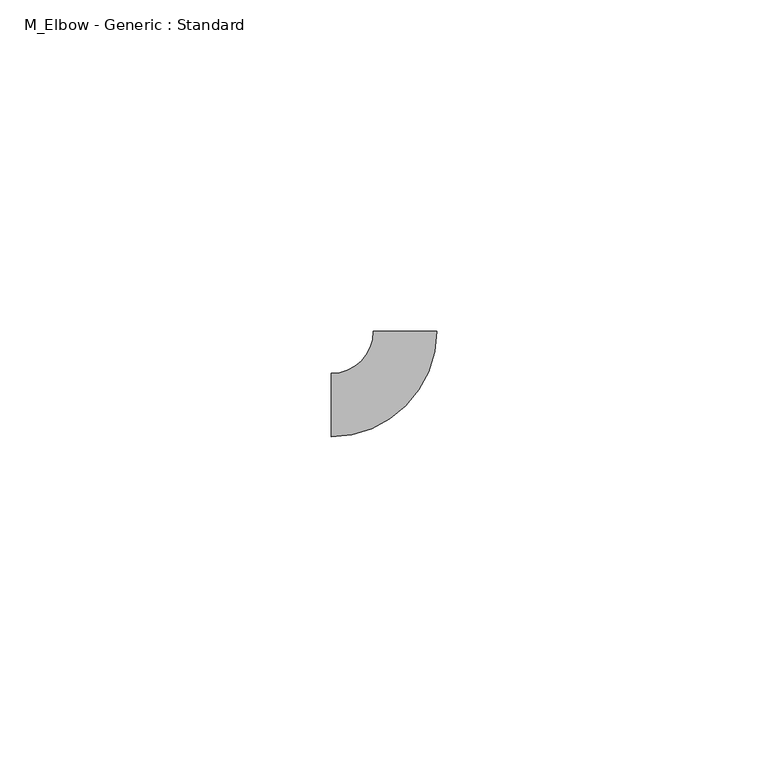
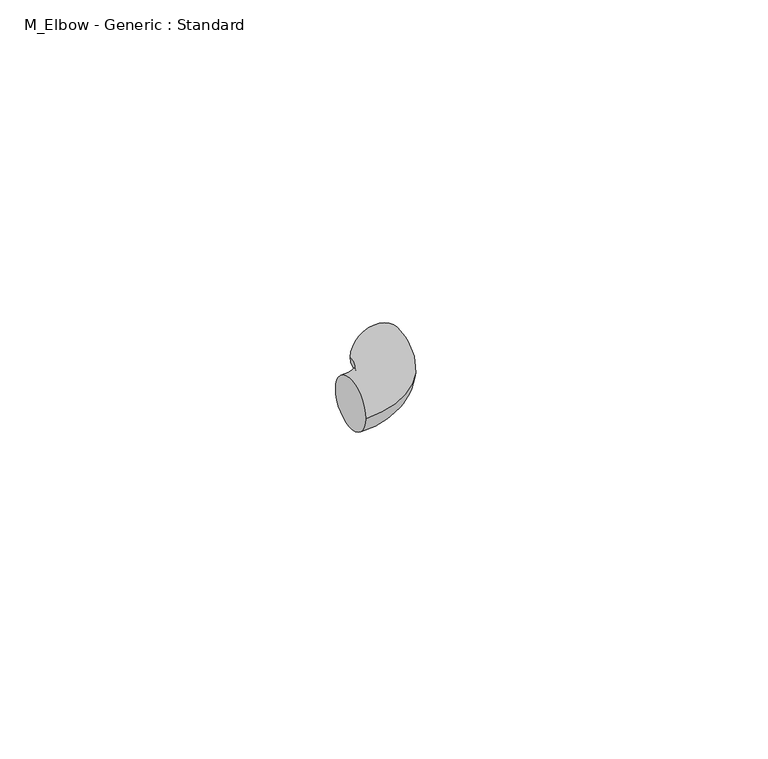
"""IFC4 building model written with IfcOpenShell, lengths in millimetres: pipe fitting geometry, M_Elbow - Generic : Standard."""

import ifcopenshell
import ifcopenshell.guid

model = None  # the IFC model being written
_history = None  # IfcOwnerHistory: only IFC2X3 demands one
_inside = {}  # id of a spatial element -> (the spatial element, [elements in it])
_under = {}  # id of a project, library or spatial element -> (it, [spatial elements below it])
_declared = {}  # id of a project -> (the project, [libraries it declares])
_typed = {}  # id of a type object -> (the type object, [elements of that type])
_made_of = {}  # id of a material, layer set ... -> (it, [elements and type objects made of it])


def new_model(schema):
    """Start an empty IFC model of exactly this schema.

    Asked for "IFC4X3", IfcOpenShell would pick the latest addendum, in which some entities
    have other attributes; the version numbers below select the first issue.
    IFC2X3 requires an IfcOwnerHistory on every rooted entity: one is made here for all.
    """
    global model, _history
    if schema == "IFC4X3":
        model = ifcopenshell.file(schema_version=(4, 3, 0, 0))
    else:
        model = ifcopenshell.file(schema=schema)
    _inside.clear()
    _under.clear()
    _declared.clear()
    _typed.clear()
    _made_of.clear()
    _history = None
    if model.schema == "IFC2X3":
        org = make("IfcOrganization", Name="unknown")
        user = make(
            "IfcPersonAndOrganization",
            ThePerson=make("IfcPerson", FamilyName="unknown"),
            TheOrganization=org,
        )
        app = make(
            "IfcApplication",
            ApplicationDeveloper=org,
            Version="unknown",
            ApplicationFullName="unknown",
            ApplicationIdentifier="unknown",
        )
        _history = make(
            "IfcOwnerHistory",
            OwningUser=user,
            OwningApplication=app,
            ChangeAction="ADDED",
            CreationDate=0,
        )
    return model


def make(cls, **values):
    """One entity of the class cls with the attributes given. An attribute that is None is left unset."""
    return model.create_entity(
        cls, **{name: value for name, value in values.items() if value is not None}
    )


def rooted(cls, **values):
    """An entity with a GlobalId (a new one), such as an element, a storey or a relation."""
    return make(cls, GlobalId=ifcopenshell.guid.new(), OwnerHistory=_history, **values)


def si_unit(unit_type, name, prefix=None):
    """IfcSIUnit, for example si_unit("LENGTHUNIT", "METRE", prefix="MILLI")."""
    return make("IfcSIUnit", UnitType=unit_type, Prefix=prefix, Name=name)


def assignment(units):
    """IfcUnitAssignment: the units of a project."""
    return None if units is None else make("IfcUnitAssignment", Units=units)


def point(xyz):
    """IfcCartesianPoint."""
    return None if xyz is None else make("IfcCartesianPoint", Coordinates=xyz)


def direction(xyz):
    """IfcDirection."""
    return None if xyz is None else make("IfcDirection", DirectionRatios=xyz)


def frame(location, z_axis=None, x_axis=None):
    """IfcAxis2Placement3D, a coordinate frame: its origin and axes. An axis left out is left unset."""
    return make(
        "IfcAxis2Placement3D",
        Location=point(location),
        Axis=direction(z_axis),
        RefDirection=direction(x_axis),
    )


def origin():
    """The frame at (0, 0, 0) with its axes left unset."""
    return frame((0.0, 0.0, 0.0))


def place(relative_to, where):
    """IfcLocalPlacement: puts the frame where relative to a parent placement (None: the world)."""
    return make(
        "IfcLocalPlacement", PlacementRelTo=relative_to, RelativePlacement=where
    )


def context(
    kind, dimensions, precision=None, world=None, true_north=None, identifier=None
):
    """IfcGeometricRepresentationContext, for example the 3D "Model" context."""
    return make(
        "IfcGeometricRepresentationContext",
        ContextIdentifier=identifier,
        ContextType=kind,
        CoordinateSpaceDimension=dimensions,
        Precision=precision,
        WorldCoordinateSystem=world,
        TrueNorth=true_north,
    )


def project(units=None, contexts=None):
    """IfcProject with its units and contexts."""
    return rooted(
        "IfcProject",
        Name="project",
        RepresentationContexts=contexts,
        UnitsInContext=assignment(units),
    )


def spatial(cls, under=None, at=None, **own):
    """A site, building, storey or space (cls), placed at a placement, below another one or the project."""
    s = rooted(cls, ObjectPlacement=at, **own)
    if under is not None:
        _under.setdefault(under.id(), (under, []))[1].append(s)
    return s


def circle_curve(where, radius):
    """IfcCircle in the frame where."""
    return make("IfcCircle", Position=where, Radius=radius)


def ellipse_curve(where, semi_axis1, semi_axis2):
    """IfcEllipse in the frame where."""
    return make(
        "IfcEllipse", Position=where, SemiAxis1=semi_axis1, SemiAxis2=semi_axis2
    )


def trimmed(basis, trim1, trim2, sense, master):
    """IfcTrimmedCurve: the piece of a basis curve between two trims."""
    return make(
        "IfcTrimmedCurve",
        BasisCurve=basis,
        Trim1=trim1,
        Trim2=trim2,
        SenseAgreement=sense,
        MasterRepresentation=master,
    )


def shape(context_of_items, identifier, shape_type, items):
    """IfcShapeRepresentation: the items that make up one representation, for example the "Body"."""
    return make(
        "IfcShapeRepresentation",
        ContextOfItems=context_of_items,
        RepresentationIdentifier=identifier,
        RepresentationType=shape_type,
        Items=items,
    )


def source(mapping_origin, context_of_items, identifier, shape_type, items):
    """IfcRepresentationMap: a shape defined once, which mapped items show again and again."""
    return make(
        "IfcRepresentationMap",
        MappingOrigin=mapping_origin,
        MappedRepresentation=shape(context_of_items, identifier, shape_type, items),
    )


def transform(
    local_origin,
    x_axis=None,
    y_axis=None,
    z_axis=None,
    scale=None,
    scale2=None,
    scale3=None,
    uniform=True,
):
    """IfcCartesianTransformationOperator3D, or its non-uniform kind. x_axis, y_axis, z_axis: its Axis1, 2, 3."""
    if uniform:
        return make(
            "IfcCartesianTransformationOperator3D",
            Axis1=direction(x_axis),
            Axis2=direction(y_axis),
            LocalOrigin=point(local_origin),
            Scale=scale,
            Axis3=direction(z_axis),
        )
    return make(
        "IfcCartesianTransformationOperator3DnonUniform",
        Axis1=direction(x_axis),
        Axis2=direction(y_axis),
        LocalOrigin=point(local_origin),
        Scale=scale,
        Axis3=direction(z_axis),
        Scale2=scale2,
        Scale3=scale3,
    )


def mapped(mapping_source, mapping_target):
    """IfcMappedItem: shows the shape of a source again, moved by a transform."""
    return make(
        "IfcMappedItem", MappingSource=mapping_source, MappingTarget=mapping_target
    )


def made_of(thing, what):
    """Note that an element or type object is made of a material, layer set ...; save() writes the relation."""
    if what is not None:
        _made_of.setdefault(what.id(), (what, []))[1].append(thing)
    return thing


def element(
    cls,
    number,
    at=None,
    inside=None,
    cuts=None,
    type_object=None,
    material=None,
    context=None,
    identifier="Body",
    shape_type=None,
    held_by="IfcProductDefinitionShape",
    body=None,
    shapes=None,
    **own,
):
    """One element of the class cls, such as IfcWall. Its Tag is "e" and its number.

    at: its placement. inside: the storey or other place that contains it. cuts: it is an
    opening in that element (IfcRelVoidsElement). A single representation is given by context,
    identifier, shape_type and body (its items); several are given by shapes. held_by: the class
    of the entity that holds the representations. save() writes the other relations.
    """
    e = rooted(cls, Tag="e%d" % number, ObjectPlacement=at, **own)
    if body is not None:
        shapes = [shape(context, identifier, shape_type, body)]
    if shapes is not None:
        e.Representation = make(held_by, Representations=shapes)
    if inside is not None:
        _inside.setdefault(inside.id(), (inside, []))[1].append(e)
    if cuts is not None:
        rooted(
            "IfcRelVoidsElement", RelatingBuildingElement=cuts, RelatedOpeningElement=e
        )
    if type_object is not None:
        _typed.setdefault(type_object.id(), (type_object, []))[1].append(e)
    return made_of(e, material)


def aggregate(whole, parts):
    """IfcRelAggregates: a whole, such as a stair, and the parts it consists of."""
    return rooted("IfcRelAggregates", RelatingObject=whole, RelatedObjects=parts)


def save(model, path):
    """Write the relations noted so far, then the file.

    IfcRelAggregates (storeys below a building ...), IfcRelContainedInSpatialStructure (elements
    in a storey), IfcRelDefinesByType, IfcRelAssociatesMaterial and IfcRelDeclares: one each for
    every whole, place, type object, material and project.
    """
    for whole, parts in _under.values():
        aggregate(whole, parts)
    for where, things in _inside.values():
        rooted(
            "IfcRelContainedInSpatialStructure",
            RelatedElements=things,
            RelatingStructure=where,
        )
    for kind, things in _typed.values():
        rooted("IfcRelDefinesByType", RelatedObjects=things, RelatingType=kind)
    for what, things in _made_of.values():
        rooted("IfcRelAssociatesMaterial", RelatedObjects=things, RelatingMaterial=what)
    for by, libraries in _declared.values():
        rooted("IfcRelDeclares", RelatingContext=by, RelatedDefinitions=libraries)
    model.write(path)


def plane_surface(at):
    """IfcPlane: the flat surface through the origin of the frame at, square to its z axis."""
    return make("IfcPlane", Position=at)


def revolved_surface(curve, axis_point, axis_direction):
    """IfcSurfaceOfRevolution: the curve turned about the line through axis_point along axis_direction."""
    return make(
        "IfcSurfaceOfRevolution",
        SweptCurve=make("IfcArbitraryOpenProfileDef", ProfileType="CURVE", Curve=curve),
        AxisPosition=make("IfcAxis1Placement", Location=point(axis_point), Axis=direction(axis_direction)),
    )


def advanced_brep(points, edges, surfaces, faces):
    """IfcAdvancedBrep: a solid bounded by faces that lie on surfaces and meet in shared edges.

    An edge is (start, end): straight between two places in points (the first is 0);
    or (start, end, curve); or (start, end, curve, False) where it runs against its curve.
    A face is (place in surfaces, loops), or (place, loops, False) where it looks against
    its surface's normal. A loop lists edges by number (the first is 1), with a minus sign
    where the edge is run from its end to its start. The first loop is the outer one.
    """
    corners = [point(p) for p in points]
    vertices = [make("IfcVertexPoint", VertexGeometry=c) for c in corners]
    made = []
    for start, end, *more in edges:
        made.append(
            make(
                "IfcEdgeCurve",
                EdgeStart=vertices[start],
                EdgeEnd=vertices[end],
                EdgeGeometry=more[0] if more else make("IfcPolyline", Points=[corners[start], corners[end]]),
                SameSense=more[1] if len(more) > 1 else True,
            )
        )
    hull = []
    for where, loops, *sense in faces:
        bounds = []
        for j, loop in enumerate(loops):
            ring = [make("IfcOrientedEdge", EdgeElement=made[abs(k) - 1], Orientation=k > 0) for k in loop]
            bounds.append(
                make(
                    "IfcFaceOuterBound" if j == 0 else "IfcFaceBound",
                    Bound=make("IfcEdgeLoop", EdgeList=ring),
                    Orientation=True,
                )
            )
        hull.append(make("IfcAdvancedFace", Bounds=bounds, FaceSurface=surfaces[where], SameSense=sense[0] if sense else True))
    return make("IfcAdvancedBrep", Outer=make("IfcClosedShell", CfsFaces=hull))


def m_elbow_generic_standard_96996eaf(model_context):
    return source(origin(), model_context, "Body", "AdvancedBrep", [
        advanced_brep(
        [(-11.1120091, -4.7625, 0.0), (-11.1120091, 4.7625, 0.0), (4.7629909, 11.1117987, 0.0), (-4.7620091, 11.1122195, 0.0)],
        [
            (0, 1, circle_curve(frame((-11.1120091, 0.0, 0.0), z_axis=(-1.0, 0.0, 0.0), x_axis=(0.0, 1.0, 0.0)), 4.7625)),
            (1, 0, circle_curve(frame((-11.1120091, 0.0, 0.0), z_axis=(-1.0, 0.0, 0.0), x_axis=(0.0, 1.0, 0.0)), 4.7625)),
            (2, 3, circle_curve(frame((0.0004909, 11.1120091, 0.0), z_axis=(4.417863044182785e-05, 0.9999999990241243, 0.0), x_axis=(-0.9999999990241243, 4.417863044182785e-05, 0.0)), 4.7625)),
            (3, 2, circle_curve(frame((0.0004909, 11.1120091, 0.0), z_axis=(4.417863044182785e-05, 0.9999999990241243, 0.0), x_axis=(-0.9999999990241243, 4.417863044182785e-05, 0.0)), 4.7625)),
            (3, 1, circle_curve(frame((-11.1120091, 11.1125, 0.0), z_axis=(0.0, 0.0, -1.0), x_axis=(0.0, -1.0, 0.0)), 6.35)),
            (0, 2, circle_curve(frame((-11.1120091, 11.1125, 0.0), z_axis=(0.0, 0.0, 1.0), x_axis=(0.0, -1.0, 0.0)), 15.875)),
        ],
        [
            plane_surface(frame((-11.1120091, 0.0, 0.0), z_axis=(-1.0, 0.0, 0.0), x_axis=(0.0, 0.0, 1.0))),
            plane_surface(frame((0.0004909, 11.1120091, 0.0), z_axis=(4.417863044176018e-05, 0.9999999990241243, 0.0), x_axis=(0.0, 0.0, 1.0))),
            revolved_surface(trimmed(ellipse_curve(frame((-11.1120091, 0.0, 0.0), z_axis=(-1.0, 0.0, 0.0), x_axis=(0.0, 1.0, 0.0)), 4.7625, 4.7625), [point((-11.1120091, -4.7625, 0.0))], [point((-11.1120091, 4.7625, 0.0))], True, "CARTESIAN"), (-11.1120091, 11.1125, 0.0), (0.0, 0.0, 1.0)),
            revolved_surface(trimmed(ellipse_curve(frame((-11.1120091, 0.0, 0.0), z_axis=(-1.0, 0.0, 0.0), x_axis=(0.0, 1.0, 0.0)), 4.7625, 4.7625), [point((-11.1120091, 4.7625, 0.0))], [point((-11.1120091, -4.7625, 0.0))], True, "CARTESIAN"), (-11.1120091, 11.1125, 0.0), (0.0, 0.0, 1.0)),
        ],
        [
            (0, [[1, 2]]),
            (1, [[3, 4]]),
            (2, [[5, -1, 6, -4]]),
            (3, [[-6, -2, -5, -3]]),
        ],
    ),
    ])


if __name__ == "__main__":
    model = new_model("IFC4")
    model_context = context("Model", 3, world=origin())
    ifc_project = project(units=[si_unit("LENGTHUNIT", "METRE", prefix="MILLI")], contexts=[model_context])
    site = spatial("IfcSite", under=ifc_project)
    building = spatial("IfcBuilding", under=site)
    placement = place(None, origin())
    m_elbow_generic_standard_shape = m_elbow_generic_standard_96996eaf(model_context)
    element("IfcPipeFitting", 1, ObjectType="M_Elbow - Generic : Standard", at=placement, inside=building, context=model_context, shape_type="MappedRepresentation", body=[
        mapped(m_elbow_generic_standard_shape, transform((0.0, 0.0, 0.0), x_axis=(1.0, 0.0, 0.0), y_axis=(0.0, 1.0, 0.0), z_axis=(0.0, 0.0, 1.0))),
    ])
    save(model, "model.ifc")
